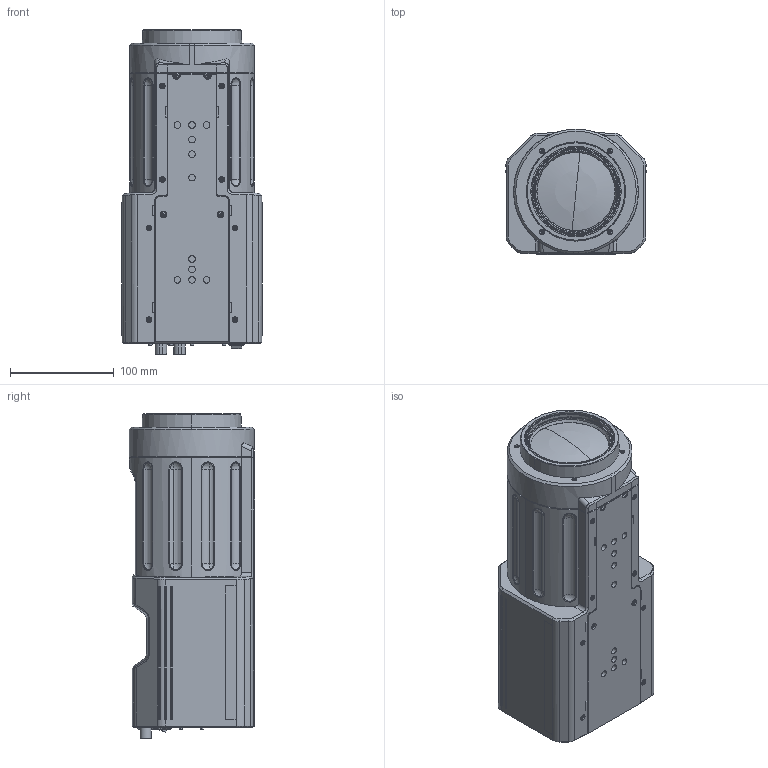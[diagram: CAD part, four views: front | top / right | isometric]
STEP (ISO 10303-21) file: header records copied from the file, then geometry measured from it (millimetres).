
FILE_DESCRIPTION(('CoCreate Modeling STEP Export'),'2;1');
FILE_NAME('SX400_3D_Data_Basic_20251219.stp','2025-12-19T 9:06:58',(''),(''),'CoCreate Modeling STEP processor for AP214 (Solid Model)','CoCreate Modeling 16.00B 02-Dec-2008 (C) Parametric Technology GmbH','');
FILE_SCHEMA(('AUTOMOTIVE_DESIGN { 1 0 10303 214 1 1 1 1 }'));
Products named in the file (44): PANEL; 110M170402D_SE2PN174R0S2.16; 110M170402D_SE2PN174R0S2; 110M170402D_SE2PN174R0S2.11; 110M170402D_SE2PN174R0S2.12; 110M170402D_SE2PN174R0S2.13; 110M170402D_SE2PN174R0S2.14; 110M170402D_SE2PN174R0S2.15; 110M170402D_SE2PN174R0S2.10; p1; p2; BB00062295_SHCPN305R0S2.1; BB00062295_SHCPN305R0S2; A_BUTTON__; 261M20050Z_SM2PN205R0S2.2; COVER_LENS_FRONT__; A_COVER_LENS_FRONT; CASE_RIGHT__.4; CASE_RIGHT__.3; CASE_RIGHT__.2; CASE_RIGHT__.1; CASE_RIGHT__; CASE_RIGHT__.5; 110M250600Z_SM2PN256R0S2.4; 110M250600Z_SM2PN256R0S2.2; A_CASE_RIGHT__; 110M250600Z_SM2PN256R0S2.1; 110M250600Z_SM2PN256R0S2.5; CASE_LEFT__; A_CASE_LEFT; 11_BARREL_1ST; 12_RING_RETAINER_G1_; LENS; 10__1_X2_7FA430EC30F330BA67A090; 0010__X2_524D30EC30F330BA67A090; ASM0209; LENS_ASSY_20251125; A_FROM__; FRAME_LENS_D; 110M300800Z_SM2PN308R0S2.3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
Assembly tree (67 placements, depth 7):
  SX400_3D_Data_Basic_20251219
    A_FRAME_LENS__
      110M300800Z_SM2PN308R0S2.3  x4
      FRAME_LENS_D
    A_FROM__
      LENS_ASSY_20251125
        ASM0209
          0010__X2_524D30EC30F330BA67A090
            10__1_X2_7FA430EC30F330BA67A090
              LENS
              12_RING_RETAINER_G1_
              11_BARREL_1ST
    A_CASE_LEFT
      CASE_LEFT__
      110M250600Z_SM2PN256R0S2.5
      110M250600Z_SM2PN256R0S2.4  x5
      110M250600Z_SM2PN256R0S2.1
    A_CASE_RIGHT__
      110M250600Z_SM2PN256R0S2.4  x5
      110M250600Z_SM2PN256R0S2.2
      CASE_RIGHT__.5
      CASE_RIGHT__
      CASE_RIGHT__.1
      CASE_RIGHT__.2
      CASE_RIGHT__.3
      CASE_RIGHT__.4
    A_COVER_LENS_FRONT
      COVER_LENS_FRONT__
      261M20050Z_SM2PN205R0S2.2  x4
    A_BUTTON__
      BB00062295_SHCPN305R0S2
        p2
        p1
      BB00062295_SHCPN305R0S2.1
        p2
        p1
      110M170402D_SE2PN174R0S2.16  x10
      110M170402D_SE2PN174R0S2.10
      110M170402D_SE2PN174R0S2.15
      110M170402D_SE2PN174R0S2.14
      110M170402D_SE2PN174R0S2.13
      110M170402D_SE2PN174R0S2.12
      110M170402D_SE2PN174R0S2.11
      110M170402D_SE2PN174R0S2
      PANEL
Bounding box: 135.3 x 120.45 x 312.23 mm (x, y, z)
Volume: 584398.9 mm3; surface area: 389668.3 mm2
Topology: 47 solids, 97 shells, 5382 faces, 13833 edges, 8868 vertices
Faces by surface type: plane 2981, cylinder 1590, cone 246, torus 234, bspline 205, sphere 122, extrusion 4
Entity records: 167207 total; most frequent: CARTESIAN_POINT 41304, ORIENTED_EDGE 25076, DIRECTION 21977, EDGE_CURVE 12561, VECTOR 8065, VERTEX_POINT 8064, LINE 8061, AXIS2_PLACEMENT_3D 6956
